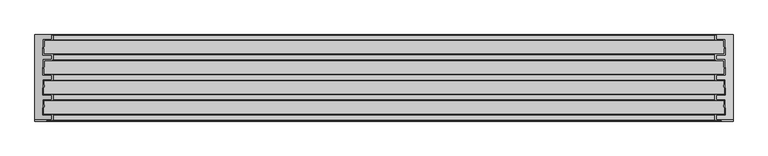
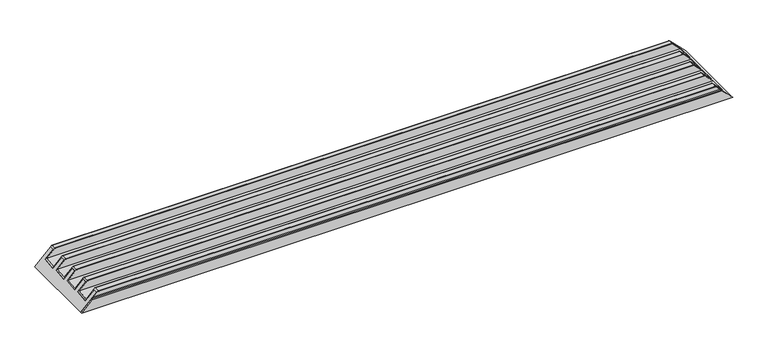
"""IFC4 building model written with IfcOpenShell, lengths in millimetres: proxy geometry, Weiku - Montante - Caixilho quíntuplo 02.2.01.003-003 refilado : Weiku - Montante - Caixilho quíntuplo 02.2.01.003-003 refilado."""

from ifc_helpers import new_model, si_unit, frame, origin, place, context, project, spatial, polyline, ellipse_curve, faceted_brep, source, transform, mapped, element, save
from ifc_brep_helpers import plane_surface, cylinder_surface, revolved_surface, advanced_brep


def generic_models_be86009b(model_context):
    return source(origin(), model_context, "Body", "SolidModel", [
        advanced_brep(
        [(-1020.5, -246.0, 55.0), (1020.5, -246.0, 55.0), (1023.5, -246.0, 52.0), (-1023.5, -246.0, 52.0), (-1019.5, -247.0, 56.0), (1019.5, -247.0, 56.0), (-1019.5, -264.0, 56.0), (1019.5, -264.0, 56.0), (-1020.5, -265.0, 55.0), (1020.5, -265.0, 55.0), (-1034.5, -265.0, 41.0), (1034.5, -265.0, 41.0), (-1037.5, -266.0, 38.0), (1037.5, -266.0, 38.0), (-1040.5, -267.0, 35.0), (1040.5, -267.0, 35.0), (1075.5, -267.0, 0.0), (-1075.5, -267.0, 0.0), (-1075.5, -263.0, 0.0), (1075.5, -263.0, 0.0), (-1023.5, -263.0, 52.0), (1023.5, -263.0, 52.0)],
        [
            (0, 1),
            (1, 2),
            (2, 3),
            (3, 0),
            (4, 5),
            (5, 1, ellipse_curve(frame((1020.5, -247.0, 55.0), z_axis=(-0.7071067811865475, 0.0, -0.7071067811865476), x_axis=(-0.7071067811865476, 0.0, 0.7071067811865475)), 1.4142136, 1.0)),
            (0, 4, ellipse_curve(frame((-1020.5, -247.0, 55.0), z_axis=(0.7071067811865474, 0.0, -0.7071067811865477), x_axis=(-0.7071067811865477, 0.0, -0.7071067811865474)), 1.4142136, 1.0)),
            (6, 7),
            (7, 5),
            (4, 6),
            (8, 9),
            (9, 7, ellipse_curve(frame((1020.5, -264.0, 55.0), z_axis=(-0.7071067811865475, 0.0, -0.7071067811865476), x_axis=(-0.7071067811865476, 0.0, 0.7071067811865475)), 1.4142136, 1.0)),
            (6, 8, ellipse_curve(frame((-1020.5, -264.0, 55.0), z_axis=(0.7071067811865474, 0.0, -0.7071067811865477), x_axis=(-0.7071067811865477, 0.0, -0.7071067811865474)), 1.4142136, 1.0)),
            (10, 11),
            (11, 9),
            (8, 10),
            (12, 13),
            (13, 11, ellipse_curve(frame((1034.5, -270.0, 41.0), z_axis=(0.7071067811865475, 0.0, 0.7071067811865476), x_axis=(0.7071067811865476, 0.0, -0.7071067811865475)), 7.0710678, 5.0)),
            (10, 12, ellipse_curve(frame((-1034.5, -270.0, 41.0), z_axis=(-0.7071067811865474, 0.0, 0.7071067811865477), x_axis=(0.7071067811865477, 0.0, 0.7071067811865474)), 7.0710678, 5.0)),
            (14, 15),
            (15, 13, ellipse_curve(frame((1040.5, -262.0, 35.0), z_axis=(-0.7071067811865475, 0.0, -0.7071067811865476), x_axis=(-0.7071067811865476, 0.0, 0.7071067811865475)), 7.0710678, 5.0)),
            (12, 14, ellipse_curve(frame((-1040.5, -262.0, 35.0), z_axis=(0.7071067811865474, 0.0, -0.7071067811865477), x_axis=(-0.7071067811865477, 0.0, -0.7071067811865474)), 7.0710678, 5.0)),
            (16, 15),
            (14, 17),
            (17, 16),
            (17, 18),
            (18, 19),
            (19, 16),
            (18, 20),
            (20, 21),
            (21, 19),
            (2, 21),
            (20, 3),
        ],
        [
            plane_surface(frame((-1075.5, -246.0, 52.0), z_axis=(0.0, 1.0, 0.0), x_axis=(1.0, 0.0, 0.0))),
            cylinder_surface(frame((-1075.5, -247.0, 55.0), z_axis=(-1.0, 0.0, 0.0), x_axis=(0.0, -1.0, 0.0)), 1.0),
            plane_surface(frame((-1075.5, -247.0, 56.0), z_axis=(0.0, 0.0, 1.0), x_axis=(1.0, 0.0, 0.0))),
            cylinder_surface(frame((-1075.5, -264.0, 55.0), z_axis=(-1.0, 0.0, 0.0), x_axis=(0.0, -1.0, 0.0)), 1.0),
            plane_surface(frame((-1075.5, -265.0, 55.0), z_axis=(0.0, -1.0, 0.0), x_axis=(1.0, 0.0, 0.0))),
            revolved_surface(polyline([(1039.49999999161, -275.0, 41.0), (-1039.49999999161, -275.0, 41.0)]), (-1075.5, -270.0, 41.0), (1.0, 0.0, 0.0)),
            cylinder_surface(frame((-1075.5, -262.0, 35.0), z_axis=(-1.0, 0.0, 0.0), x_axis=(0.0, -1.0, 0.0)), 5.0),
            plane_surface(frame((-1075.5, -267.0, 35.0), z_axis=(0.0, -1.0, 0.0), x_axis=(1.0, 0.0, 0.0))),
            plane_surface(frame((-1075.5, -267.0, 0.0), z_axis=(0.0, 0.0, -1.0), x_axis=(1.0, 0.0, 0.0))),
            plane_surface(frame((-1075.5, -263.0, 0.0), z_axis=(0.0, 1.0, 0.0), x_axis=(1.0, 0.0, 0.0))),
            plane_surface(frame((-1075.5, -263.0, 52.0), z_axis=(0.0, 0.0, -1.0), x_axis=(1.0, 0.0, 0.0))),
            plane_surface(frame((-1075.5, -287.2837741, 0.0), z_axis=(-0.7071067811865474, 0.0, 0.7071067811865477), x_axis=(0.7071067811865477, 0.0, 0.7071067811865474))),
            plane_surface(frame((1075.5, 12.7162259, 0.0), z_axis=(0.7071067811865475, 0.0, 0.7071067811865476), x_axis=(-0.7071067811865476, 0.0, 0.7071067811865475))),
        ],
        [
            (0, [[1, 2, 3, 4]]),
            (1, [[5, 6, -1, 7]]),
            (2, [[8, 9, -5, 10]]),
            (3, [[11, 12, -8, 13]]),
            (4, [[14, 15, -11, 16]]),
            (5, [[17, 18, -14, 19]]),
            (6, [[20, 21, -17, 22]]),
            (7, [[23, -20, 24, 25]]),
            (8, [[26, 27, 28, -25]]),
            (9, [[29, 30, 31, -27]]),
            (10, [[-3, 32, -30, 33]]),
            (11, [[-33, -29, -26, -24, -22, -19, -16, -13, -10, -7, -4]]),
            (12, [[-6, -9, -12, -15, -18, -21, -23, -28, -31, -32, -2]]),
        ],
    ),
        advanced_brep(
        [(-1023.5, 0.0, 52.0), (1023.5, 0.0, 52.0), (1023.5, -15.0, 52.0), (-1023.5, -15.0, 52.0), (-1020.5, 0.0, 55.0), (1020.5, 0.0, 55.0), (-1019.5, -1.0, 56.0), (1019.5, -1.0, 56.0), (-1019.5, -16.0, 56.0), (1019.5, -16.0, 56.0), (-1020.5, -17.0, 55.0), (1020.5, -17.0, 55.0), (-1046.591241, -17.0, 28.908759), (1046.591241, -17.0, 28.908759), (-1020.5, -122.0, 55.0), (1020.5, -122.0, 55.0), (1048.6250261, -122.0, 26.8749739), (-1048.6250261, -122.0, 26.8749739), (-1051.7229744, -124.0, 23.7770256), (1051.7229744, -124.0, 23.7770256), (1023.5, -124.0, 52.0), (-1023.5, -124.0, 52.0), (1049.5, -15.0, 26.0), (-1049.5, -15.0, 26.0), (-1019.5, -123.0, 56.0), (1019.5, -123.0, 56.0), (-1020.5, -203.0, 55.0), (1020.5, -203.0, 55.0), (1019.5, -202.0, 56.0), (-1019.5, -202.0, 56.0), (-1046.591241, -203.0, 28.908759), (1046.591241, -203.0, 28.908759), (-1048.6250261, -246.0, 26.8749739), (1048.6250261, -246.0, 26.8749739), (-1023.5, -246.0, 52.0), (1023.5, -246.0, 52.0), (-1023.5, -248.0, 52.0), (1023.5, -248.0, 52.0), (-1051.7229744, -248.0, 23.7770256), (1051.7229744, -248.0, 23.7770256), (-1049.5, -201.0, 26.0), (1049.5, -201.0, 26.0), (-1023.5, -201.0, 52.0), (1023.5, -201.0, 52.0), (-1019.5, -140.0, 56.0), (1019.5, -140.0, 56.0), (-1020.5, -141.0, 55.0), (1020.5, -141.0, 55.0), (-1046.591241, -141.0, 28.908759), (1046.591241, -141.0, 28.908759), (-1048.6250261, -184.0, 26.8749739), (1048.6250261, -184.0, 26.8749739), (-1020.5, -184.0, 55.0), (1020.5, -184.0, 55.0), (-1019.5, -185.0, 56.0), (1019.5, -185.0, 56.0), (-1023.5, -186.0, 52.0), (1023.5, -186.0, 52.0), (-1051.7229744, -186.0, 23.7770256), (1051.7229744, -186.0, 23.7770256), (-1049.5, -139.0, 26.0), (1049.5, -139.0, 26.0), (-1023.5, -139.0, 52.0), (1023.5, -139.0, 52.0), (-1051.7229744, -62.0, 23.7770256), (-1023.5, -62.0, 52.0), (-1023.5, -77.0, 52.0), (-1049.5, -77.0, 26.0), (-1046.591241, -79.0, 28.908759), (-1020.5, -79.0, 55.0), (-1019.5, -78.0, 56.0), (-1019.5, -61.0, 56.0), (-1020.5, -60.0, 55.0), (-1048.6250261, -60.0, 26.8749739), (1048.6250261, -60.0, 26.8749739), (1020.5, -60.0, 55.0), (1019.5, -61.0, 56.0), (1019.5, -78.0, 56.0), (1020.5, -79.0, 55.0), (1046.591241, -79.0, 28.908759), (1049.5, -77.0, 26.0), (1023.5, -77.0, 52.0), (1023.5, -62.0, 52.0), (1051.7229744, -62.0, 23.7770256)],
        [
            (0, 1),
            (1, 2),
            (2, 3),
            (3, 0),
            (4, 5),
            (5, 1),
            (0, 4),
            (6, 7),
            (7, 5, ellipse_curve(frame((1020.5, -1.0, 55.0), z_axis=(-0.7071067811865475, 0.0, -0.7071067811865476), x_axis=(-0.7071067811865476, 0.0, 0.7071067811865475)), 1.4142136, 1.0)),
            (4, 6, ellipse_curve(frame((-1020.5, -1.0, 55.0), z_axis=(0.7071067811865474, 0.0, -0.7071067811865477), x_axis=(-0.7071067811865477, 0.0, -0.7071067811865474)), 1.4142136, 1.0)),
            (8, 9),
            (9, 7),
            (6, 8),
            (10, 11),
            (11, 9, ellipse_curve(frame((1020.5, -16.0, 55.0), z_axis=(-0.7071067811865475, 0.0, -0.7071067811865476), x_axis=(-0.7071067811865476, 0.0, 0.7071067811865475)), 1.4142136, 1.0)),
            (8, 10, ellipse_curve(frame((-1020.5, -16.0, 55.0), z_axis=(0.7071067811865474, 0.0, -0.7071067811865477), x_axis=(-0.7071067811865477, 0.0, -0.7071067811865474)), 1.4142136, 1.0)),
            (12, 13),
            (13, 11),
            (10, 12),
            (14, 15),
            (15, 16),
            (16, 17),
            (17, 14),
            (18, 19),
            (19, 20),
            (20, 21),
            (21, 18),
            (2, 22),
            (22, 23),
            (23, 3),
            (24, 25),
            (25, 15, ellipse_curve(frame((1020.5, -123.0, 55.0), z_axis=(-0.7071067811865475, 0.0, -0.7071067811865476), x_axis=(-0.7071067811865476, 0.0, 0.7071067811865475)), 1.4142136, 1.0)),
            (14, 24, ellipse_curve(frame((-1020.5, -123.0, 55.0), z_axis=(0.7071067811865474, 0.0, -0.7071067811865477), x_axis=(-0.7071067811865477, 0.0, -0.7071067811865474)), 1.4142136, 1.0)),
            (26, 27),
            (27, 28, ellipse_curve(frame((1020.5, -202.0, 55.0), z_axis=(-0.7071067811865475, 0.0, -0.7071067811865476), x_axis=(-0.7071067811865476, 0.0, 0.7071067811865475)), 1.4142136, 1.0)),
            (28, 29),
            (29, 26, ellipse_curve(frame((-1020.5, -202.0, 55.0), z_axis=(0.7071067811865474, 0.0, -0.7071067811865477), x_axis=(-0.7071067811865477, 0.0, -0.7071067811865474)), 1.4142136, 1.0)),
            (30, 31),
            (31, 27),
            (26, 30),
            (32, 33),
            (33, 31),
            (30, 32),
            (34, 35),
            (35, 33),
            (32, 34),
            (36, 37),
            (37, 35),
            (34, 36),
            (38, 39),
            (39, 37),
            (36, 38),
            (40, 41),
            (41, 39),
            (38, 40),
            (42, 43),
            (43, 41),
            (40, 42),
            (44, 45),
            (45, 25),
            (24, 44),
            (46, 47),
            (47, 45, ellipse_curve(frame((1020.5, -140.0, 55.0), z_axis=(-0.7071067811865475, 0.0, -0.7071067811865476), x_axis=(-0.7071067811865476, 0.0, 0.7071067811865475)), 1.4142136, 1.0)),
            (44, 46, ellipse_curve(frame((-1020.5, -140.0, 55.0), z_axis=(0.7071067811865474, 0.0, -0.7071067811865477), x_axis=(-0.7071067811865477, 0.0, -0.7071067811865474)), 1.4142136, 1.0)),
            (48, 49),
            (49, 47),
            (46, 48),
            (50, 51),
            (51, 49),
            (48, 50),
            (52, 53),
            (53, 51),
            (50, 52),
            (54, 55),
            (55, 53, ellipse_curve(frame((1020.5, -185.0, 55.0), z_axis=(-0.7071067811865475, 0.0, -0.7071067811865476), x_axis=(-0.7071067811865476, 0.0, 0.7071067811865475)), 1.4142136, 1.0)),
            (52, 54, ellipse_curve(frame((-1020.5, -185.0, 55.0), z_axis=(0.7071067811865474, 0.0, -0.7071067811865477), x_axis=(-0.7071067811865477, 0.0, -0.7071067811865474)), 1.4142136, 1.0)),
            (28, 55),
            (54, 29),
            (56, 57),
            (57, 43),
            (42, 56),
            (58, 59),
            (59, 57),
            (56, 58),
            (60, 61),
            (61, 59),
            (58, 60),
            (62, 63),
            (63, 61),
            (60, 62),
            (20, 63),
            (62, 21),
            (23, 64),
            (64, 65),
            (65, 66),
            (66, 67),
            (67, 18),
            (17, 68),
            (68, 69),
            (69, 70, ellipse_curve(frame((-1020.5, -78.0, 55.0), z_axis=(-0.7071067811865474, 0.0, 0.7071067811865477), x_axis=(-0.7071067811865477, 0.0, -0.7071067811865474)), 1.4142136, 1.0)),
            (70, 71),
            (71, 72, ellipse_curve(frame((-1020.5, -61.0, 55.0), z_axis=(-0.7071067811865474, 0.0, 0.7071067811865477), x_axis=(-0.7071067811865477, 0.0, -0.7071067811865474)), 1.4142136, 1.0)),
            (72, 73),
            (73, 12),
            (13, 74),
            (74, 75),
            (75, 76, ellipse_curve(frame((1020.5, -61.0, 55.0), z_axis=(0.7071067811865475, 0.0, 0.7071067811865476), x_axis=(-0.7071067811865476, 0.0, 0.7071067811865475)), 1.4142136, 1.0)),
            (76, 77),
            (77, 78, ellipse_curve(frame((1020.5, -78.0, 55.0), z_axis=(0.7071067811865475, 0.0, 0.7071067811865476), x_axis=(-0.7071067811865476, 0.0, 0.7071067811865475)), 1.4142136, 1.0)),
            (78, 79),
            (79, 16),
            (19, 80),
            (80, 81),
            (81, 82),
            (82, 83),
            (83, 22),
            (73, 74),
            (72, 75),
            (71, 76),
            (70, 77),
            (69, 78),
            (68, 79),
            (67, 80),
            (66, 81),
            (65, 82),
            (64, 83),
        ],
        [
            plane_surface(frame((-1075.5, -15.0, 52.0), z_axis=(0.0, 0.0, -1.0), x_axis=(1.0, 0.0, 0.0))),
            plane_surface(frame((-1075.5, 0.0, 52.0), z_axis=(0.0, 1.0, 0.0), x_axis=(1.0, 0.0, 0.0))),
            cylinder_surface(frame((-1075.5, -1.0, 55.0), z_axis=(-1.0, 0.0, 0.0), x_axis=(0.0, -1.0, 0.0)), 1.0),
            plane_surface(frame((-1075.5, -1.0, 56.0), z_axis=(0.0, 0.0, 1.0), x_axis=(1.0, 0.0, 0.0))),
            cylinder_surface(frame((-1075.5, -16.0, 55.0), z_axis=(-1.0, 0.0, 0.0), x_axis=(0.0, -1.0, 0.0)), 1.0),
            plane_surface(frame((-1075.5, -17.0, 55.0), z_axis=(0.0, -1.0, 0.0), x_axis=(1.0, 0.0, 0.0))),
            plane_surface(frame((-1075.5, -122.0, 26.8749739), z_axis=(0.0, 1.0, 0.0), x_axis=(1.0, 0.0, 0.0))),
            plane_surface(frame((-1075.5, -124.0, 52.0), z_axis=(0.0, -1.0, 0.0), x_axis=(1.0, 0.0, 0.0))),
            plane_surface(frame((-1075.5, -15.0, 26.0), z_axis=(0.0, 1.0, 0.0), x_axis=(1.0, 0.0, 0.0))),
            cylinder_surface(frame((-1075.5, -123.0, 55.0), z_axis=(-1.0, 0.0, 0.0), x_axis=(0.0, -1.0, 0.0)), 1.0),
            cylinder_surface(frame((-1075.5, -202.0, 55.0), z_axis=(-1.0, 0.0, 0.0), x_axis=(0.0, -1.0, 0.0)), 1.0),
            plane_surface(frame((-1075.5, -203.0, 55.0), z_axis=(0.0, -1.0, 0.0), x_axis=(1.0, 0.0, 0.0))),
            plane_surface(frame((-1075.5, -203.0, 28.908759), z_axis=(0.0, -0.0472445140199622, 0.9988833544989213), x_axis=(1.0, 0.0, 0.0))),
            plane_surface(frame((-1075.5, -246.0, 26.8749739), z_axis=(0.0, 1.0, 0.0), x_axis=(1.0, 0.0, 0.0))),
            plane_surface(frame((-1075.5, -246.0, 52.0), z_axis=(0.0, 0.0, 1.0), x_axis=(1.0, 0.0, 0.0))),
            plane_surface(frame((-1075.5, -248.0, 52.0), z_axis=(0.0, -1.0, 0.0), x_axis=(1.0, 0.0, 0.0))),
            plane_surface(frame((-1075.5, -248.0, 23.7770256), z_axis=(0.0, 0.047244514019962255, -0.9988833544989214), x_axis=(1.0, 0.0, 0.0))),
            plane_surface(frame((-1075.5, -201.0, 26.0), z_axis=(0.0, 1.0, 0.0), x_axis=(1.0, 0.0, 0.0))),
            plane_surface(frame((-1075.5, -123.0, 56.0), z_axis=(0.0, 0.0, 1.0), x_axis=(1.0, 0.0, 0.0))),
            cylinder_surface(frame((-1075.5, -140.0, 55.0), z_axis=(-1.0, 0.0, 0.0), x_axis=(0.0, -1.0, 0.0)), 1.0),
            plane_surface(frame((-1075.5, -141.0, 55.0), z_axis=(0.0, -1.0, 0.0), x_axis=(1.0, 0.0, 0.0))),
            plane_surface(frame((-1075.5, -141.0, 28.908759), z_axis=(0.0, -0.0472445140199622, 0.9988833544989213), x_axis=(1.0, 0.0, 0.0))),
            plane_surface(frame((-1075.5, -184.0, 26.8749739), z_axis=(0.0, 1.0, 0.0), x_axis=(1.0, 0.0, 0.0))),
            cylinder_surface(frame((-1075.5, -185.0, 55.0), z_axis=(-1.0, 0.0, 0.0), x_axis=(0.0, -1.0, 0.0)), 1.0),
            plane_surface(frame((-1075.5, -185.0, 56.0), z_axis=(0.0, 0.0, 1.0), x_axis=(1.0, 0.0, 0.0))),
            plane_surface(frame((-1075.5, -201.0, 52.0), z_axis=(0.0, 0.0, -1.0), x_axis=(1.0, 0.0, 0.0))),
            plane_surface(frame((-1075.5, -186.0, 52.0), z_axis=(0.0, -1.0, 0.0), x_axis=(1.0, 0.0, 0.0))),
            plane_surface(frame((-1075.5, -186.0, 23.7770256), z_axis=(0.0, 0.047244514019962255, -0.9988833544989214), x_axis=(1.0, 0.0, 0.0))),
            plane_surface(frame((-1075.5, -139.0, 26.0), z_axis=(0.0, 1.0, 0.0), x_axis=(1.0, 0.0, 0.0))),
            plane_surface(frame((-1075.5, -139.0, 52.0), z_axis=(0.0, 0.0, -1.0), x_axis=(1.0, 0.0, 0.0))),
            plane_surface(frame((-1075.5, -287.2837741, 0.0), z_axis=(-0.7071067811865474, 0.0, 0.7071067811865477), x_axis=(0.7071067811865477, 0.0, 0.7071067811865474))),
            plane_surface(frame((1075.5, 12.7162259, 0.0), z_axis=(0.7071067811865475, 0.0, 0.7071067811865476), x_axis=(-0.7071067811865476, 0.0, 0.7071067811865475))),
            plane_surface(frame((-1075.5, -17.0, 28.908759), z_axis=(0.0, -0.0472445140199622, 0.9988833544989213), x_axis=(1.0, 0.0, 0.0))),
            plane_surface(frame((-1075.5, -60.0, 26.8749739), z_axis=(0.0, 1.0, 0.0), x_axis=(1.0, 0.0, 0.0))),
            cylinder_surface(frame((-1075.5, -61.0, 55.0), z_axis=(-1.0, 0.0, 0.0), x_axis=(0.0, -1.0, 0.0)), 1.0),
            plane_surface(frame((-1075.5, -61.0, 56.0), z_axis=(0.0, 0.0, 1.0), x_axis=(1.0, 0.0, 0.0))),
            cylinder_surface(frame((-1075.5, -78.0, 55.0), z_axis=(-1.0, 0.0, 0.0), x_axis=(0.0, -1.0, 0.0)), 1.0),
            plane_surface(frame((-1075.5, -79.0, 55.0), z_axis=(0.0, -1.0, 0.0), x_axis=(1.0, 0.0, 0.0))),
            plane_surface(frame((-1075.5, -79.0, 28.908759), z_axis=(0.0, -0.0472445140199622, 0.9988833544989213), x_axis=(1.0, 0.0, 0.0))),
            plane_surface(frame((-1075.5, -124.0, 23.7770256), z_axis=(0.0, 0.047244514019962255, -0.9988833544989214), x_axis=(1.0, 0.0, 0.0))),
            plane_surface(frame((-1075.5, -77.0, 26.0), z_axis=(0.0, 1.0, 0.0), x_axis=(1.0, 0.0, 0.0))),
            plane_surface(frame((-1075.5, -77.0, 52.0), z_axis=(0.0, 0.0, -1.0), x_axis=(1.0, 0.0, 0.0))),
            plane_surface(frame((-1075.5, -62.0, 52.0), z_axis=(0.0, -1.0, 0.0), x_axis=(1.0, 0.0, 0.0))),
            plane_surface(frame((-1075.5, -62.0, 23.7770256), z_axis=(0.0, 0.047244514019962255, -0.9988833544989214), x_axis=(1.0, 0.0, 0.0))),
        ],
        [
            (0, [[1, 2, 3, 4]]),
            (1, [[5, 6, -1, 7]]),
            (2, [[8, 9, -5, 10]]),
            (3, [[11, 12, -8, 13]]),
            (4, [[14, 15, -11, 16]]),
            (5, [[17, 18, -14, 19]]),
            (6, [[20, 21, 22, 23]]),
            (7, [[24, 25, 26, 27]]),
            (8, [[-3, 28, 29, 30]]),
            (9, [[31, 32, -20, 33]]),
            (10, [[34, 35, 36, 37]]),
            (11, [[38, 39, -34, 40]]),
            (12, [[41, 42, -38, 43]]),
            (13, [[44, 45, -41, 46]]),
            (14, [[47, 48, -44, 49]]),
            (15, [[50, 51, -47, 52]]),
            (16, [[53, 54, -50, 55]]),
            (17, [[56, 57, -53, 58]]),
            (18, [[59, 60, -31, 61]]),
            (19, [[62, 63, -59, 64]]),
            (20, [[65, 66, -62, 67]]),
            (21, [[68, 69, -65, 70]]),
            (22, [[71, 72, -68, 73]]),
            (23, [[74, 75, -71, 76]]),
            (24, [[-36, 77, -74, 78]]),
            (25, [[79, 80, -56, 81]]),
            (26, [[82, 83, -79, 84]]),
            (27, [[85, 86, -82, 87]]),
            (28, [[88, 89, -85, 90]]),
            (29, [[-26, 91, -88, 92]]),
            (30, [[-30, 93, 94, 95, 96, 97, -27, -92, -90, -87, -84, -81, -58, -55, -52, -49, -46, -43, -40, -37, -78, -76, -73, -70, -67, -64, -61, -33, -23, 98, 99, 100, 101, 102, 103, 104, -19, -16, -13, -10, -7, -4]]),
            (31, [[-6, -9, -12, -15, -18, 105, 106, 107, 108, 109, 110, 111, -21, -32, -60, -63, -66, -69, -72, -75, -77, -35, -39, -42, -45, -48, -51, -54, -57, -80, -83, -86, -89, -91, -25, 112, 113, 114, 115, 116, -28, -2]]),
            (32, [[117, -105, -17, -104]]),
            (33, [[118, -106, -117, -103]]),
            (34, [[119, -107, -118, -102]]),
            (35, [[120, -108, -119, -101]]),
            (36, [[121, -109, -120, -100]]),
            (37, [[122, -110, -121, -99]]),
            (38, [[-22, -111, -122, -98]]),
            (39, [[123, -112, -24, -97]]),
            (40, [[124, -113, -123, -96]]),
            (41, [[125, -114, -124, -95]]),
            (42, [[126, -115, -125, -94]]),
            (43, [[-29, -116, -126, -93]]),
        ],
    ),
        faceted_brep([(-1049.5, -139.0, 26.0), (1049.5, -139.0, 26.0), (1023.5, -139.0, 52.0), (-1023.5, -139.0, 52.0), (-1051.7229744, -186.0, 23.7770256), (1051.7229744, -186.0, 23.7770256), (-1023.5, -186.0, 52.0), (1023.5, -186.0, 52.0), (-1023.5, -201.0, 52.0), (1023.5, -201.0, 52.0), (-1075.5, -263.0, 0.0), (-1075.5, 0.0, 0.0), (1075.5, 0.0, 0.0), (1075.5, -263.0, 0.0), (1023.5, -124.0, 52.0), (-1023.5, -124.0, 52.0), (-1049.5, -201.0, 26.0), (1049.5, -201.0, 26.0), (-1051.7229744, -248.0, 23.7770256), (1051.7229744, -248.0, 23.7770256), (-1023.5, -248.0, 52.0), (1023.5, -248.0, 52.0), (-1023.5, -263.0, 52.0), (1023.5, -263.0, 52.0), (-1023.5, 0.0, 52.0), (1023.5, 0.0, 52.0), (1051.7229744, -124.0, 23.7770256), (-1051.7229744, -124.0, 23.7770256), (-1049.5, -77.0, 26.0), (-1023.5, -77.0, 52.0), (-1023.5, -62.0, 52.0), (-1051.7229744, -62.0, 23.7770256), (-1049.5, -15.0, 26.0), (-1023.5, -15.0, 52.0), (1023.5, -15.0, 52.0), (1049.5, -15.0, 26.0), (1051.7229744, -62.0, 23.7770256), (1023.5, -62.0, 52.0), (1023.5, -77.0, 52.0), (1049.5, -77.0, 26.0)], [[[0, 1, 2, 3]], [[4, 5, 1, 0]], [[6, 7, 5, 4]], [[8, 9, 7, 6]], [[10, 11, 12, 13]], [[3, 2, 14, 15]], [[16, 17, 9, 8]], [[18, 19, 17, 16]], [[20, 21, 19, 18]], [[22, 23, 21, 20]], [[13, 23, 22, 10]], [[11, 24, 25, 12]], [[15, 14, 26, 27]], [[3, 15, 27, 28, 29, 30, 31, 32, 33, 24, 11, 10, 22, 20, 18, 16, 8, 6, 4, 0]], [[1, 5, 7, 9, 17, 19, 21, 23, 13, 12, 25, 34, 35, 36, 37, 38, 39, 26, 14, 2]], [[33, 34, 25, 24]], [[32, 35, 34, 33]], [[31, 36, 35, 32]], [[30, 37, 36, 31]], [[29, 38, 37, 30]], [[28, 39, 38, 29]], [[27, 26, 39, 28]]]),
    ])


if __name__ == "__main__":
    model = new_model("IFC4")
    model_context = context("Model", 3, world=origin())
    ifc_project = project(units=[si_unit("LENGTHUNIT", "METRE", prefix="MILLI")], contexts=[model_context])
    site = spatial("IfcSite", under=ifc_project)
    building = spatial("IfcBuilding", under=site)
    placement = place(None, origin())
    generic_models_shape = generic_models_be86009b(model_context)
    element("IfcBuildingElementProxy", 1, Name="Weiku - Montante - Caixilho quíntuplo 02.2.01.003-003 refilado : Weiku - Montante - Caixilho quíntuplo 02.2.01.003-003 refilado", ObjectType="Weiku - Montante - Caixilho quíntuplo 02.2.01.003-003 refilado : Weiku - Montante - Caixilho quíntuplo 02.2.01.003-003 refilado", at=placement, inside=building, context=model_context, shape_type="MappedRepresentation", body=[
        mapped(generic_models_shape, transform((0.0, 0.0, 0.0), x_axis=(1.0, 0.0, 0.0), y_axis=(0.0, 1.0, 0.0), z_axis=(0.0, 0.0, 1.0))),
    ])
    save(model, "model.ifc")
